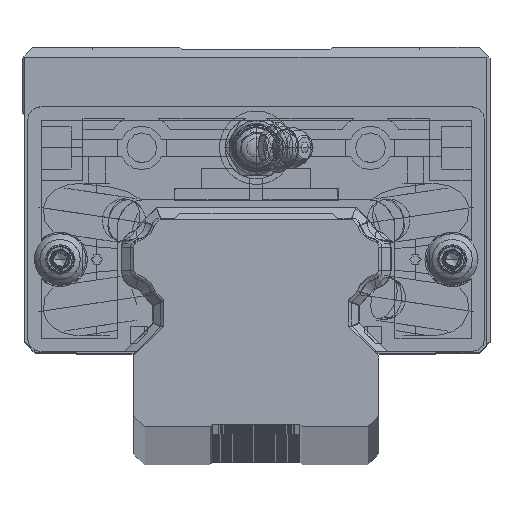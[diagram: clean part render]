
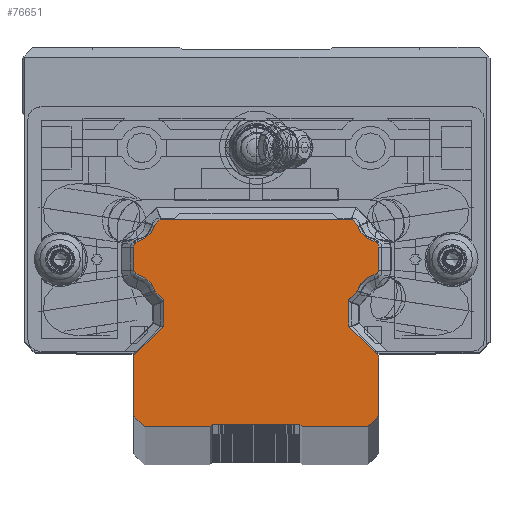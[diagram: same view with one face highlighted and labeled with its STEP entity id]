
A CAD part, top view. The second image highlights one B-rep face of the part: STEP entity #76651.
In plain terms, the highlighted planar face has unit normal (0, 0, 1).
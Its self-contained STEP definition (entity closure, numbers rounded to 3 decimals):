
#71407=DIRECTION('',(0.,-1.,0.));
#71408=VECTOR('',#71407,4.85);
#71409=CARTESIAN_POINT('',(-17.,-7.65,500.));
#71410=LINE('',#71409,#71408);
#71419=DIRECTION('',(0.,-1.,0.));
#71420=VECTOR('',#71419,11.);
#71421=CARTESIAN_POINT('',(-22.5,-18.,500.));
#71422=LINE('',#71421,#71420);
#71431=DIRECTION('',(1.,0.,0.));
#71432=VECTOR('',#71431,12.);
#71433=CARTESIAN_POINT('',(-20.5,-31.,500.));
#71434=LINE('',#71433,#71432);
#72807=DIRECTION('',(0.,-1.,0.));
#72808=VECTOR('',#72807,3.955);
#72809=CARTESIAN_POINT('',(-22.5,1.977,500.));
#72810=LINE('',#72809,#72808);
#72943=DIRECTION('',(-0.707,0.707,0.));
#72944=VECTOR('',#72943,2.29);
#72945=CARTESIAN_POINT('',(-17.,-7.65,500.));
#72946=LINE('',#72945,#72944);
#72947=CARTESIAN_POINT('',(-22.664,-7.164,500.));
#72948=DIRECTION('',(0.,0.,1.));
#72949=DIRECTION('',(0.963,0.27,0.));
#72950=AXIS2_PLACEMENT_3D('',#72947,#72948,#72949);
#72952=CARTESIAN_POINT('',(-21.35,-1.977,500.));
#72953=DIRECTION('',(0.,0.,-1.));
#72954=DIRECTION('',(-0.246,-0.969,0.));
#72955=AXIS2_PLACEMENT_3D('',#72952,#72953,#72954);
#72957=CARTESIAN_POINT('',(-21.35,1.977,500.));
#72958=DIRECTION('',(0.,0.,-1.));
#72959=DIRECTION('',(-1.,0.,0.));
#72960=AXIS2_PLACEMENT_3D('',#72957,#72958,#72959);
#72962=CARTESIAN_POINT('',(-22.664,7.164,500.));
#72963=DIRECTION('',(0.,0.,1.));
#72964=DIRECTION('',(0.246,-0.969,0.));
#72965=AXIS2_PLACEMENT_3D('',#72962,#72963,#72964);
#72967=DIRECTION('',(0.707,0.707,0.));
#72968=VECTOR('',#72967,1.371);
#72969=CARTESIAN_POINT('',(-18.619,6.031,500.));
#72970=LINE('',#72969,#72968);
#72971=DIRECTION('',(1.,0.,0.));
#72972=VECTOR('',#72971,35.3);
#72973=CARTESIAN_POINT('',(-17.65,7.,500.));
#72974=LINE('',#72973,#72972);
#72975=DIRECTION('',(0.707,-0.707,0.));
#72976=VECTOR('',#72975,1.371);
#72977=CARTESIAN_POINT('',(17.65,7.,500.));
#72978=LINE('',#72977,#72976);
#72979=CARTESIAN_POINT('',(22.664,7.164,500.));
#72980=DIRECTION('',(0.,0.,1.));
#72981=DIRECTION('',(-0.963,-0.27,0.));
#72982=AXIS2_PLACEMENT_3D('',#72979,#72980,#72981);
#72984=CARTESIAN_POINT('',(21.35,1.977,500.));
#72985=DIRECTION('',(0.,0.,-1.));
#72986=DIRECTION('',(0.246,0.969,0.));
#72987=AXIS2_PLACEMENT_3D('',#72984,#72985,#72986);
#72989=CARTESIAN_POINT('',(21.35,-1.977,500.));
#72990=DIRECTION('',(0.,0.,-1.));
#72991=DIRECTION('',(1.,0.,0.));
#72992=AXIS2_PLACEMENT_3D('',#72989,#72990,#72991);
#72994=CARTESIAN_POINT('',(22.664,-7.164,500.));
#72995=DIRECTION('',(0.,0.,1.));
#72996=DIRECTION('',(-0.246,0.969,0.));
#72997=AXIS2_PLACEMENT_3D('',#72994,#72995,#72996);
#72999=DIRECTION('',(-0.707,-0.707,0.));
#73000=VECTOR('',#72999,2.29);
#73001=CARTESIAN_POINT('',(18.619,-6.031,500.));
#73002=LINE('',#73001,#73000);
#73003=DIRECTION('',(0.707,-0.707,0.));
#73004=VECTOR('',#73003,7.778);
#73005=CARTESIAN_POINT('',(17.,-12.5,500.));
#73006=LINE('',#73005,#73004);
#73007=DIRECTION('',(-0.707,-0.707,0.));
#73008=VECTOR('',#73007,2.828);
#73009=CARTESIAN_POINT('',(22.5,-29.,500.));
#73010=LINE('',#73009,#73008);
#73011=DIRECTION('',(-0.707,0.707,0.));
#73012=VECTOR('',#73011,0.707);
#73013=CARTESIAN_POINT('',(8.5,-31.,500.));
#73014=LINE('',#73013,#73012);
#73015=DIRECTION('',(-1.,0.,0.));
#73016=VECTOR('',#73015,16.);
#73017=CARTESIAN_POINT('',(8.,-30.5,500.));
#73018=LINE('',#73017,#73016);
#73019=DIRECTION('',(-0.707,-0.707,0.));
#73020=VECTOR('',#73019,0.707);
#73021=CARTESIAN_POINT('',(-8.,-30.5,500.));
#73022=LINE('',#73021,#73020);
#73023=DIRECTION('',(-0.707,0.707,0.));
#73024=VECTOR('',#73023,2.828);
#73025=CARTESIAN_POINT('',(-20.5,-31.,500.));
#73026=LINE('',#73025,#73024);
#73027=DIRECTION('',(0.707,0.707,0.));
#73028=VECTOR('',#73027,7.778);
#73029=CARTESIAN_POINT('',(-22.5,-18.,500.));
#73030=LINE('',#73029,#73028);
#73047=DIRECTION('',(0.,1.,0.));
#73048=VECTOR('',#73047,3.955);
#73049=CARTESIAN_POINT('',(22.5,-1.977,500.));
#73050=LINE('',#73049,#73048);
#73067=DIRECTION('',(0.,1.,0.));
#73068=VECTOR('',#73067,4.85);
#73069=CARTESIAN_POINT('',(17.,-12.5,500.));
#73070=LINE('',#73069,#73068);
#73079=DIRECTION('',(0.,1.,0.));
#73080=VECTOR('',#73079,11.);
#73081=CARTESIAN_POINT('',(22.5,-29.,500.));
#73082=LINE('',#73081,#73080);
#73091=DIRECTION('',(1.,0.,0.));
#73092=VECTOR('',#73091,12.);
#73093=CARTESIAN_POINT('',(8.5,-31.,500.));
#73094=LINE('',#73093,#73092);
#74103=CARTESIAN_POINT('',(-17.,-7.65,500.));
#74104=CARTESIAN_POINT('',(-18.619,-6.031,500.));
#74105=VERTEX_POINT('',#74103);
#74106=VERTEX_POINT('',#74104);
#74107=CARTESIAN_POINT('',(-21.632,-3.092,500.));
#74108=VERTEX_POINT('',#74107);
#74109=CARTESIAN_POINT('',(-22.5,-1.977,500.));
#74110=VERTEX_POINT('',#74109);
#74111=CARTESIAN_POINT('',(-22.5,1.977,500.));
#74112=VERTEX_POINT('',#74111);
#74113=CARTESIAN_POINT('',(-21.632,3.092,500.));
#74114=VERTEX_POINT('',#74113);
#74115=CARTESIAN_POINT('',(-18.619,6.031,500.));
#74116=VERTEX_POINT('',#74115);
#74117=CARTESIAN_POINT('',(-17.65,7.,500.));
#74118=VERTEX_POINT('',#74117);
#74119=CARTESIAN_POINT('',(17.65,7.,500.));
#74120=VERTEX_POINT('',#74119);
#74161=CARTESIAN_POINT('',(18.619,6.031,500.));
#74162=VERTEX_POINT('',#74161);
#74163=CARTESIAN_POINT('',(21.632,3.092,500.));
#74164=VERTEX_POINT('',#74163);
#74165=CARTESIAN_POINT('',(22.5,1.977,500.));
#74166=VERTEX_POINT('',#74165);
#74167=CARTESIAN_POINT('',(22.5,-1.977,500.));
#74168=VERTEX_POINT('',#74167);
#74169=CARTESIAN_POINT('',(21.632,-3.092,500.));
#74170=VERTEX_POINT('',#74169);
#74171=CARTESIAN_POINT('',(18.619,-6.031,500.));
#74172=VERTEX_POINT('',#74171);
#74173=CARTESIAN_POINT('',(17.,-7.65,500.));
#74174=VERTEX_POINT('',#74173);
#74175=CARTESIAN_POINT('',(17.,-12.5,500.));
#74176=VERTEX_POINT('',#74175);
#74177=CARTESIAN_POINT('',(22.5,-18.,500.));
#74178=VERTEX_POINT('',#74177);
#74179=CARTESIAN_POINT('',(22.5,-29.,500.));
#74180=VERTEX_POINT('',#74179);
#74181=CARTESIAN_POINT('',(20.5,-31.,500.));
#74182=VERTEX_POINT('',#74181);
#74183=CARTESIAN_POINT('',(8.5,-31.,500.));
#74184=VERTEX_POINT('',#74183);
#74185=CARTESIAN_POINT('',(8.,-30.5,500.));
#74186=VERTEX_POINT('',#74185);
#74187=CARTESIAN_POINT('',(-8.,-30.5,500.));
#74188=VERTEX_POINT('',#74187);
#74229=CARTESIAN_POINT('',(-8.5,-31.,500.));
#74230=VERTEX_POINT('',#74229);
#74231=CARTESIAN_POINT('',(-20.5,-31.,500.));
#74232=VERTEX_POINT('',#74231);
#74233=CARTESIAN_POINT('',(-22.5,-29.,500.));
#74234=VERTEX_POINT('',#74233);
#74235=CARTESIAN_POINT('',(-22.5,-18.,500.));
#74236=VERTEX_POINT('',#74235);
#74237=CARTESIAN_POINT('',(-17.,-12.5,500.));
#74238=VERTEX_POINT('',#74237);
#76604=CARTESIAN_POINT('',(0.,0.,500.));
#76605=DIRECTION('',(0.,0.,1.));
#76606=DIRECTION('',(1.,0.,0.));
#76607=AXIS2_PLACEMENT_3D('',#76604,#76605,#76606);
#76608=PLANE('',#76607);
#76609=ORIENTED_EDGE('',*,*,#74834,.T.);
#76610=ORIENTED_EDGE('',*,*,#76508,.T.);
#76611=ORIENTED_EDGE('',*,*,#76494,.T.);
#76612=ORIENTED_EDGE('',*,*,#76479,.F.);
#76613=ORIENTED_EDGE('',*,*,#76464,.T.);
#76614=ORIENTED_EDGE('',*,*,#76449,.T.);
#76615=ORIENTED_EDGE('',*,*,#76434,.T.);
#76616=ORIENTED_EDGE('',*,*,#75550,.T.);
#76618=ORIENTED_EDGE('',*,*,#76617,.T.);
#76620=ORIENTED_EDGE('',*,*,#76619,.T.);
#76622=ORIENTED_EDGE('',*,*,#76621,.T.);
#76624=ORIENTED_EDGE('',*,*,#76623,.F.);
#76626=ORIENTED_EDGE('',*,*,#76625,.T.);
#76628=ORIENTED_EDGE('',*,*,#76627,.T.);
#76630=ORIENTED_EDGE('',*,*,#76629,.T.);
#76632=ORIENTED_EDGE('',*,*,#76631,.F.);
#76634=ORIENTED_EDGE('',*,*,#76633,.T.);
#76636=ORIENTED_EDGE('',*,*,#76635,.F.);
#76638=ORIENTED_EDGE('',*,*,#76637,.T.);
#76640=ORIENTED_EDGE('',*,*,#76639,.F.);
#76641=ORIENTED_EDGE('',*,*,#76595,.T.);
#76642=ORIENTED_EDGE('',*,*,#74993,.T.);
#76643=ORIENTED_EDGE('',*,*,#74926,.T.);
#76644=ORIENTED_EDGE('',*,*,#74909,.F.);
#76645=ORIENTED_EDGE('',*,*,#74894,.T.);
#76646=ORIENTED_EDGE('',*,*,#74879,.F.);
#76647=ORIENTED_EDGE('',*,*,#74864,.T.);
#76648=ORIENTED_EDGE('',*,*,#74849,.F.);
#76649=EDGE_LOOP('',(#76609,#76610,#76611,#76612,#76613,#76614,#76615,#76616,
#76618,#76620,#76622,#76624,#76626,#76628,#76630,#76632,#76634,#76636,#76638,
#76640,#76641,#76642,#76643,#76644,#76645,#76646,#76647,#76648));
#76650=FACE_OUTER_BOUND('',#76649,.F.);
#76651=ADVANCED_FACE('',(#76650),#76608,.T.);
#72951=CIRCLE('',#72950,4.2);
#72956=CIRCLE('',#72955,1.15);
#72961=CIRCLE('',#72960,1.15);
#72966=CIRCLE('',#72965,4.2);
#72983=CIRCLE('',#72982,4.2);
#72988=CIRCLE('',#72987,1.15);
#72993=CIRCLE('',#72992,1.15);
#72998=CIRCLE('',#72997,4.2);
#74834=EDGE_CURVE('',#74105,#74106,#72946,.T.);
#74849=EDGE_CURVE('',#74105,#74238,#71410,.T.);
#74864=EDGE_CURVE('',#74236,#74238,#73030,.T.);
#74879=EDGE_CURVE('',#74236,#74234,#71422,.T.);
#74894=EDGE_CURVE('',#74232,#74234,#73026,.T.);
#74909=EDGE_CURVE('',#74232,#74230,#71434,.T.);
#74926=EDGE_CURVE('',#74188,#74230,#73022,.T.);
#74993=EDGE_CURVE('',#74186,#74188,#73018,.T.);
#75550=EDGE_CURVE('',#74118,#74120,#72974,.T.);
#76434=EDGE_CURVE('',#74116,#74118,#72970,.T.);
#76449=EDGE_CURVE('',#74114,#74116,#72966,.T.);
#76464=EDGE_CURVE('',#74112,#74114,#72961,.T.);
#76479=EDGE_CURVE('',#74112,#74110,#72810,.T.);
#76494=EDGE_CURVE('',#74108,#74110,#72956,.T.);
#76508=EDGE_CURVE('',#74106,#74108,#72951,.T.);
#76595=EDGE_CURVE('',#74184,#74186,#73014,.T.);
#76617=EDGE_CURVE('',#74120,#74162,#72978,.T.);
#76619=EDGE_CURVE('',#74162,#74164,#72983,.T.);
#76621=EDGE_CURVE('',#74164,#74166,#72988,.T.);
#76623=EDGE_CURVE('',#74168,#74166,#73050,.T.);
#76625=EDGE_CURVE('',#74168,#74170,#72993,.T.);
#76627=EDGE_CURVE('',#74170,#74172,#72998,.T.);
#76629=EDGE_CURVE('',#74172,#74174,#73002,.T.);
#76631=EDGE_CURVE('',#74176,#74174,#73070,.T.);
#76633=EDGE_CURVE('',#74176,#74178,#73006,.T.);
#76635=EDGE_CURVE('',#74180,#74178,#73082,.T.);
#76637=EDGE_CURVE('',#74180,#74182,#73010,.T.);
#76639=EDGE_CURVE('',#74184,#74182,#73094,.T.);
